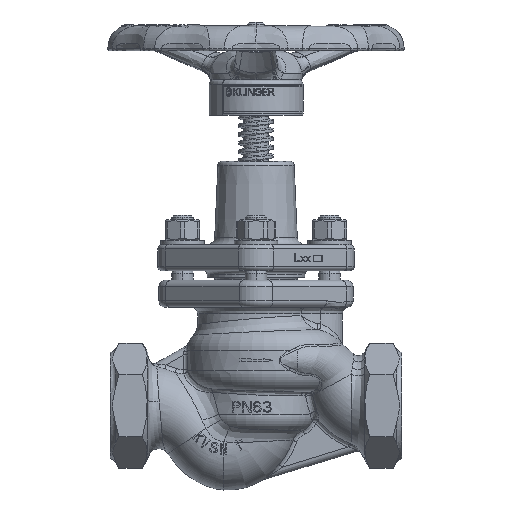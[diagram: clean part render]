
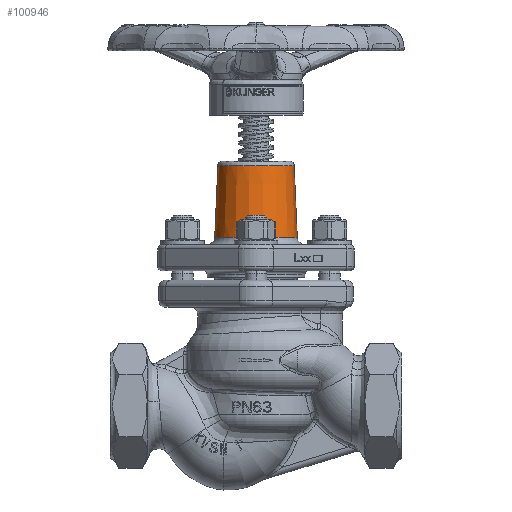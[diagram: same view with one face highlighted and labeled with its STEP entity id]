
A CAD part, front view. The second image highlights one B-rep face of the part: STEP entity #100946.
In plain terms, the highlighted conical face has half-angle 2.5 degrees and reference radius 18.378 mm.
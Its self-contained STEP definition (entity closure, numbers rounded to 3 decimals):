
#26115=DIRECTION('',(0.044,0.,-0.999));
#26116=VECTOR('',#26115,33.272);
#26117=CARTESIAN_POINT('',(17.653,0.,111.087));
#26118=LINE('',#26117,#26116);
#26119=DIRECTION('',(-0.044,0.,-0.999));
#26120=VECTOR('',#26119,33.272);
#26121=CARTESIAN_POINT('',(-17.653,0.,111.087));
#26122=LINE('',#26121,#26120);
#26148=CARTESIAN_POINT('',(0.,0.,77.847));
#26149=DIRECTION('',(0.,0.,1.));
#26150=DIRECTION('',(-1.,0.,0.));
#26151=AXIS2_PLACEMENT_3D('',#26148,#26149,#26150);
#26153=CARTESIAN_POINT('',(0.,0.,111.087));
#26154=DIRECTION('',(0.,0.,-1.));
#26155=DIRECTION('',(1.,0.,0.));
#26156=AXIS2_PLACEMENT_3D('',#26153,#26154,#26155);
#40257=CARTESIAN_POINT('',(-17.653,0.,111.087));
#40258=CARTESIAN_POINT('',(17.653,0.,111.087));
#40259=VERTEX_POINT('',#40257);
#40260=VERTEX_POINT('',#40258);
#40317=CARTESIAN_POINT('',(19.104,0.,77.847));
#40318=CARTESIAN_POINT('',(-19.104,0.,77.847));
#40319=VERTEX_POINT('',#40317);
#40320=VERTEX_POINT('',#40318);
#100934=CARTESIAN_POINT('',(0.,0.,94.467));
#100935=DIRECTION('',(0.,0.,-1.));
#100936=DIRECTION('',(-1.,0.,0.));
#100937=AXIS2_PLACEMENT_3D('',#100934,#100935,#100936);
#100938=CONICAL_SURFACE('',#100937,18.378,2.5);
#100939=ORIENTED_EDGE('',*,*,#100928,.F.);
#100940=ORIENTED_EDGE('',*,*,#100902,.F.);
#100942=ORIENTED_EDGE('',*,*,#100941,.F.);
#100943=ORIENTED_EDGE('',*,*,#100899,.T.);
#100944=EDGE_LOOP('',(#100939,#100940,#100942,#100943));
#100945=FACE_OUTER_BOUND('',#100944,.F.);
#26152=CIRCLE('',#26151,19.104);
#26157=CIRCLE('',#26156,17.653);
#100899=EDGE_CURVE('',#40260,#40319,#26118,.T.);
#100902=EDGE_CURVE('',#40259,#40320,#26122,.T.);
#100928=EDGE_CURVE('',#40320,#40319,#26152,.T.);
#100941=EDGE_CURVE('',#40260,#40259,#26157,.T.);
#100946=ADVANCED_FACE('',(#100945),#100938,.T.);
